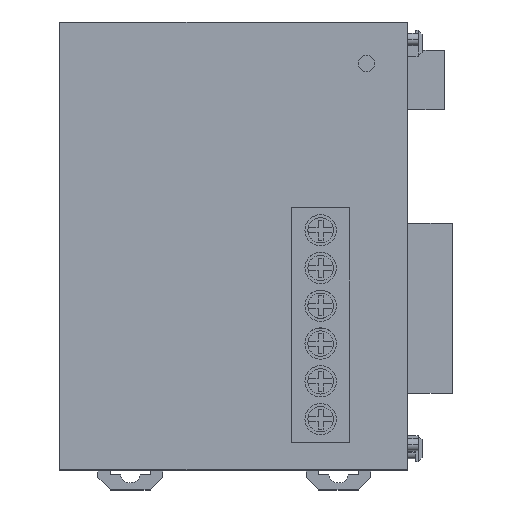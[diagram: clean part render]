
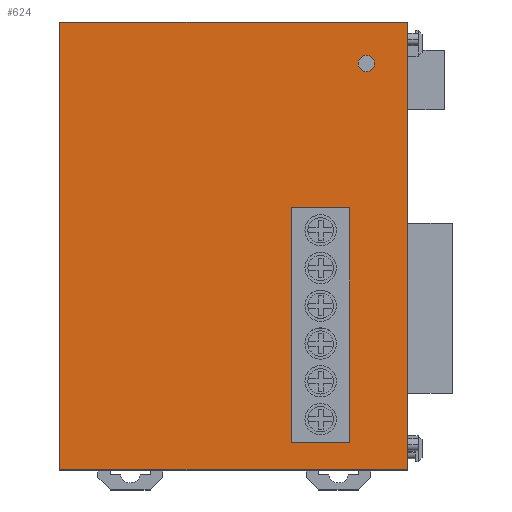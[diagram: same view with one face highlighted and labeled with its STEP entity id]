
A CAD part, top view. The second image highlights one B-rep face of the part: STEP entity #624.
In plain terms, the highlighted planar face has unit normal (0, 0, 1).
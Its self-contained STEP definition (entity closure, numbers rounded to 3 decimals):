
#422 = EDGE_CURVE ( 'NONE', #437, #438, #8932, .T. ) ;
#437 = VERTEX_POINT ( 'NONE', #9214 ) ;
#438 = VERTEX_POINT ( 'NONE', #9213 ) ;
#607 = EDGE_LOOP ( 'NONE', ( #647, #625 ) ) ;
#609 = ORIENTED_EDGE ( 'NONE', *, *, #653, .T. ) ;
#616 = VERTEX_POINT ( 'NONE', #9340 ) ;
#617 = EDGE_LOOP ( 'NONE', ( #609, #665, #668, #657 ) ) ;
#624 = ADVANCED_FACE ( 'NONE', ( #9223, #9218, #9226 ), #9350, .T. ) ;
#625 = ORIENTED_EDGE ( 'NONE', *, *, #422, .F. ) ;
#626 = VERTEX_POINT ( 'NONE', #9219 ) ;
#627 = VERTEX_POINT ( 'NONE', #9433 ) ;
#629 = EDGE_CURVE ( 'NONE', #438, #437, #9432, .T. ) ;
#639 = ORIENTED_EDGE ( 'NONE', *, *, #661, .F. ) ;
#640 = EDGE_CURVE ( 'NONE', #646, #659, #9335, .T. ) ;
#641 = ORIENTED_EDGE ( 'NONE', *, *, #640, .F. ) ;
#642 = EDGE_CURVE ( 'NONE', #616, #646, #9330, .T. ) ;
#646 = VERTEX_POINT ( 'NONE', #9329 ) ;
#647 = ORIENTED_EDGE ( 'NONE', *, *, #629, .F. ) ;
#652 = VERTEX_POINT ( 'NONE', #9323 ) ;
#653 = EDGE_CURVE ( 'NONE', #626, #627, #9272, .T. ) ;
#654 = EDGE_CURVE ( 'NONE', #627, #655, #9264, .T. ) ;
#655 = VERTEX_POINT ( 'NONE', #9270 ) ;
#656 = EDGE_CURVE ( 'NONE', #660, #616, #9422, .T. ) ;
#657 = ORIENTED_EDGE ( 'NONE', *, *, #669, .T. ) ;
#658 = ORIENTED_EDGE ( 'NONE', *, *, #656, .F. ) ;
#659 = VERTEX_POINT ( 'NONE', #9258 ) ;
#660 = VERTEX_POINT ( 'NONE', #9260 ) ;
#661 = EDGE_CURVE ( 'NONE', #659, #660, #9266, .T. ) ;
#663 = EDGE_LOOP ( 'NONE', ( #658, #639, #641, #667 ) ) ;
#665 = ORIENTED_EDGE ( 'NONE', *, *, #654, .T. ) ;
#666 = EDGE_CURVE ( 'NONE', #655, #652, #9417, .T. ) ;
#667 = ORIENTED_EDGE ( 'NONE', *, *, #642, .F. ) ;
#668 = ORIENTED_EDGE ( 'NONE', *, *, #666, .T. ) ;
#669 = EDGE_CURVE ( 'NONE', #652, #626, #9414, .T. ) ;
#8929 = DIRECTION ( 'NONE',  ( 1., 0., 0. ) ) ;
#8930 = DIRECTION ( 'NONE',  ( 0., 0., 1. ) ) ;
#8931 = AXIS2_PLACEMENT_3D ( 'NONE', #8939, #8930, #8929 ) ;
#8932 = CIRCLE ( 'NONE', #8931, 1.65 ) ;
#8939 = CARTESIAN_POINT ( 'NONE',  ( 26.7, 36.65, 80. ) ) ;
#9213 = CARTESIAN_POINT ( 'NONE',  ( 28.35, 36.65, 80. ) ) ;
#9214 = CARTESIAN_POINT ( 'NONE',  ( 25.05, 36.65, 80. ) ) ;
#9218 = FACE_OUTER_BOUND ( 'NONE', #617, .T. ) ;
#9219 = CARTESIAN_POINT ( 'NONE',  ( -35., 45., 80. ) ) ;
#9220 = DIRECTION ( 'NONE',  ( 0., 0., 1. ) ) ;
#9223 = FACE_BOUND ( 'NONE', #607, .T. ) ;
#9224 = DIRECTION ( 'NONE',  ( 0., 0., 1. ) ) ;
#9225 = CARTESIAN_POINT ( 'NONE',  ( -35., 45., 80. ) ) ;
#9226 = FACE_BOUND ( 'NONE', #663, .T. ) ;
#9232 = AXIS2_PLACEMENT_3D ( 'NONE', #9225, #9224, #9429 ) ;
#9251 = DIRECTION ( 'NONE',  ( -1., 0., 0. ) ) ;
#9252 = VECTOR ( 'NONE', #9251, 1000. ) ;
#9255 = DIRECTION ( 'NONE',  ( 0., 1., 0. ) ) ;
#9256 = VECTOR ( 'NONE', #9255, 1000. ) ;
#9257 = CARTESIAN_POINT ( 'NONE',  ( 35., -45., 80. ) ) ;
#9258 = CARTESIAN_POINT ( 'NONE',  ( 11.65, 7.6, 80. ) ) ;
#9260 = CARTESIAN_POINT ( 'NONE',  ( 11.65, -39.6, 80. ) ) ;
#9261 = DIRECTION ( 'NONE',  ( 1., 0., 0. ) ) ;
#9262 = VECTOR ( 'NONE', #9261, 1000. ) ;
#9263 = CARTESIAN_POINT ( 'NONE',  ( 35., -45., 80. ) ) ;
#9264 = LINE ( 'NONE', #9263, #9262 ) ;
#9265 = CARTESIAN_POINT ( 'NONE',  ( 11.65, 7.6, 80. ) ) ;
#9266 = LINE ( 'NONE', #9265, #9416 ) ;
#9267 = DIRECTION ( 'NONE',  ( 0., -1., 0. ) ) ;
#9268 = VECTOR ( 'NONE', #9267, 1000. ) ;
#9269 = CARTESIAN_POINT ( 'NONE',  ( -35., -45., 80. ) ) ;
#9270 = CARTESIAN_POINT ( 'NONE',  ( 35., -45., 80. ) ) ;
#9272 = LINE ( 'NONE', #9269, #9268 ) ;
#9309 = DIRECTION ( 'NONE',  ( 1., 0., 0. ) ) ;
#9313 = CARTESIAN_POINT ( 'NONE',  ( 26.7, 36.65, 80. ) ) ;
#9316 = AXIS2_PLACEMENT_3D ( 'NONE', #9313, #9220, #9309 ) ;
#9323 = CARTESIAN_POINT ( 'NONE',  ( 35., 45., 80. ) ) ;
#9326 = DIRECTION ( 'NONE',  ( 0., 1., 0. ) ) ;
#9327 = VECTOR ( 'NONE', #9326, 1000. ) ;
#9328 = CARTESIAN_POINT ( 'NONE',  ( 23.35, 7.6, 80. ) ) ;
#9329 = CARTESIAN_POINT ( 'NONE',  ( 23.35, 7.6, 80. ) ) ;
#9330 = LINE ( 'NONE', #9328, #9327 ) ;
#9335 = LINE ( 'NONE', #9452, #9448 ) ;
#9340 = CARTESIAN_POINT ( 'NONE',  ( 23.35, -39.6, 80. ) ) ;
#9350 = PLANE ( 'NONE',  #9232 ) ;
#9413 = CARTESIAN_POINT ( 'NONE',  ( 35., 45., 80. ) ) ;
#9414 = LINE ( 'NONE', #9413, #9252 ) ;
#9415 = DIRECTION ( 'NONE',  ( 0., -1., 0. ) ) ;
#9416 = VECTOR ( 'NONE', #9415, 1000. ) ;
#9417 = LINE ( 'NONE', #9257, #9256 ) ;
#9419 = DIRECTION ( 'NONE',  ( 1., 0., 0. ) ) ;
#9420 = VECTOR ( 'NONE', #9419, 1000. ) ;
#9421 = CARTESIAN_POINT ( 'NONE',  ( 11.65, -39.6, 80. ) ) ;
#9422 = LINE ( 'NONE', #9421, #9420 ) ;
#9429 = DIRECTION ( 'NONE',  ( 1., 0., 0. ) ) ;
#9432 = CIRCLE ( 'NONE', #9316, 1.65 ) ;
#9433 = CARTESIAN_POINT ( 'NONE',  ( -35., -45., 80. ) ) ;
#9447 = DIRECTION ( 'NONE',  ( -1., 0., 0. ) ) ;
#9448 = VECTOR ( 'NONE', #9447, 1000. ) ;
#9452 = CARTESIAN_POINT ( 'NONE',  ( 11.65, 7.6, 80. ) ) ;
